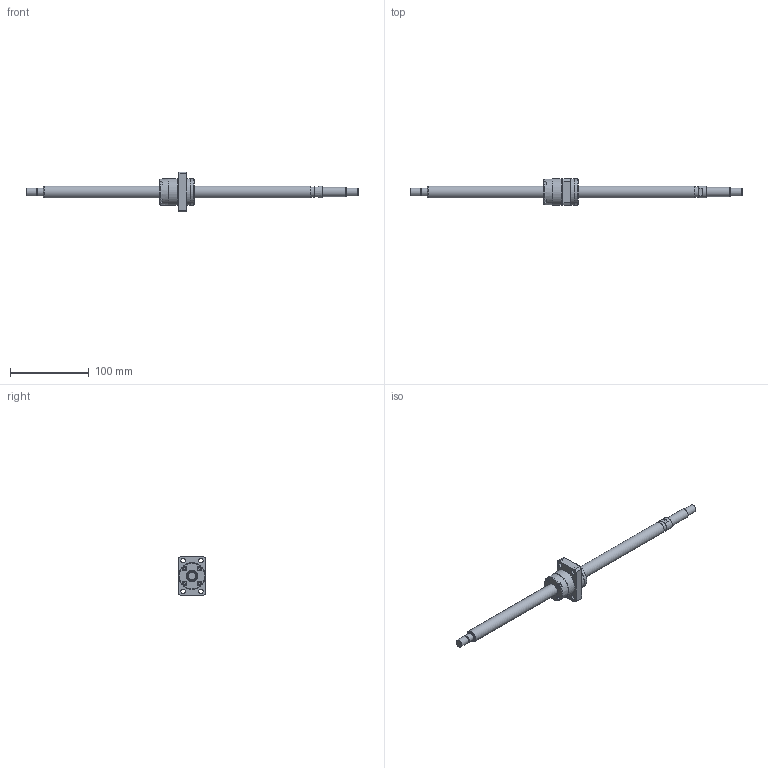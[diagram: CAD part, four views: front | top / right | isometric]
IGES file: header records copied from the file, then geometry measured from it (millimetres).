
Start section: Data from Parasolid IGES Translator 26.0.171, Copyright(c) 2006 Siemens PLM Software. All Rights Reserved.
Global section: file name: BNK1510-5.6G0+421LC5Y(191.50).igs; native system: By Siemens PLM Incorporated; preprocessor: XPlus GENERIC/IGES 26.0.171; author: Noname; organization: Noname; date: 20240709.092241; units: millimetre
Bounding box: 421 x 34 x 50 mm (x, y, z)
Surface area: 31127.8 mm2 (no closed solid volume)
Topology: 0 solids, 0 shells, 140 faces, 649 edges, 590 vertices
Faces by surface type: extrusion 76, revolution 64
